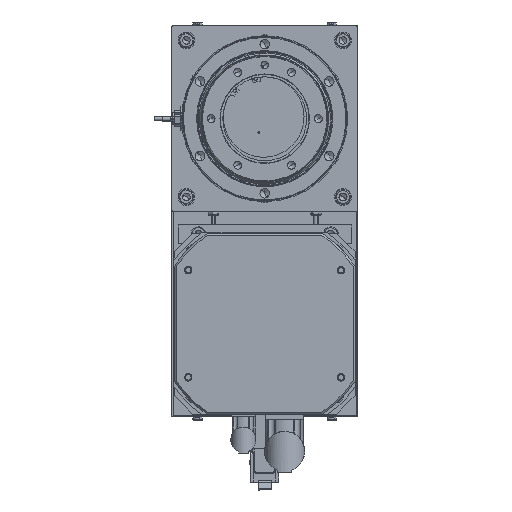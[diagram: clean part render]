
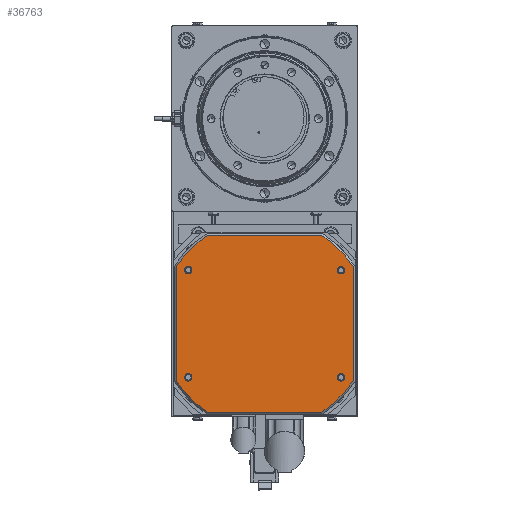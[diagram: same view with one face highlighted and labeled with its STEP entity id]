
A CAD part, front view. The second image highlights one B-rep face of the part: STEP entity #36763.
In plain terms, the highlighted planar face has unit normal (0, -1, 0).
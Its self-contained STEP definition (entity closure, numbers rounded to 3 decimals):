
#228 = CARTESIAN_POINT ( 'NONE',  ( 194.75, 449., -258.592 ) ) ;
#2243 = VERTEX_POINT ( 'NONE', #48821 ) ;
#2820 = VERTEX_POINT ( 'NONE', #10951 ) ;
#3305 = CARTESIAN_POINT ( 'NONE',  ( 17.75, 449., -377.25 ) ) ;
#3307 = CARTESIAN_POINT ( 'NONE',  ( 17.75, 449., -262.25 ) ) ;
#3503 = ORIENTED_EDGE ( 'NONE', *, *, #38273, .F. ) ;
#3523 = CIRCLE ( 'NONE', #29158, 4. ) ;
#3658 = DIRECTION ( 'NONE',  ( 0., -1., 0. ) ) ;
#4321 = VERTEX_POINT ( 'NONE', #14325 ) ;
#4734 = CARTESIAN_POINT ( 'NONE',  ( 160.908, 449., -224.75 ) ) ;
#5127 = AXIS2_PLACEMENT_3D ( 'NONE', #24623, #32156, #50766 ) ;
#5222 = ORIENTED_EDGE ( 'NONE', *, *, #24309, .F. ) ;
#5969 = CARTESIAN_POINT ( 'NONE',  ( 17.75, 449., -381.25 ) ) ;
#6204 = CIRCLE ( 'NONE', #25626, 4. ) ;
#6402 = CARTESIAN_POINT ( 'NONE',  ( 181.75, 449., -266.25 ) ) ;
#6454 = CIRCLE ( 'NONE', #31220, 4. ) ;
#7301 = DIRECTION ( 'NONE',  ( 0., -1., 0. ) ) ;
#7400 = AXIS2_PLACEMENT_3D ( 'NONE', #27707, #43821, #43326 ) ;
#7471 = DIRECTION ( 'NONE',  ( 0., 0., 1. ) ) ;
#7757 = ORIENTED_EDGE ( 'NONE', *, *, #43658, .F. ) ;
#8164 = VECTOR ( 'NONE', #18660, 1000. ) ;
#8165 = DIRECTION ( 'NONE',  ( 1., 0., 0. ) ) ;
#9275 = FACE_OUTER_BOUND ( 'NONE', #21077, .T. ) ;
#9296 = EDGE_LOOP ( 'NONE', ( #31710, #5222 ) ) ;
#9676 = CARTESIAN_POINT ( 'NONE',  ( 17.75, 449., -377.25 ) ) ;
#9792 = AXIS2_PLACEMENT_3D ( 'NONE', #38529, #30179, #14590 ) ;
#9911 = CIRCLE ( 'NONE', #31871, 4. ) ;
#10232 = ORIENTED_EDGE ( 'NONE', *, *, #27323, .T. ) ;
#10743 = AXIS2_PLACEMENT_3D ( 'NONE', #3307, #7301, #7471 ) ;
#10832 = CIRCLE ( 'NONE', #44377, 4. ) ;
#10951 = CARTESIAN_POINT ( 'NONE',  ( 17.75, 449., -266.25 ) ) ;
#11466 = CARTESIAN_POINT ( 'NONE',  ( 97.207, 449., -317.207 ) ) ;
#11477 = VERTEX_POINT ( 'NONE', #44971 ) ;
#13002 = EDGE_CURVE ( 'NONE', #45890, #41503, #19763, .T. ) ;
#13611 = FACE_BOUND ( 'NONE', #37786, .T. ) ;
#13620 = CIRCLE ( 'NONE', #47258, 116.5 ) ;
#13631 = CARTESIAN_POINT ( 'NONE',  ( 181.75, 449., -377.25 ) ) ;
#14325 = CARTESIAN_POINT ( 'NONE',  ( 181.75, 449., -258.25 ) ) ;
#14421 = DIRECTION ( 'NONE',  ( -1., 0., 0. ) ) ;
#14552 = EDGE_CURVE ( 'NONE', #2243, #50230, #3523, .T. ) ;
#14590 = DIRECTION ( 'NONE',  ( 0., 0., 1. ) ) ;
#14837 = DIRECTION ( 'NONE',  ( 0., 0., 1. ) ) ;
#15082 = DIRECTION ( 'NONE',  ( 0., 0., 1. ) ) ;
#15190 = CIRCLE ( 'NONE', #10743, 4. ) ;
#15437 = DIRECTION ( 'NONE',  ( 0., -1., 0. ) ) ;
#15870 = EDGE_LOOP ( 'NONE', ( #26726, #41537 ) ) ;
#16595 = ORIENTED_EDGE ( 'NONE', *, *, #13002, .T. ) ;
#17016 = EDGE_CURVE ( 'NONE', #19038, #42724, #18730, .T. ) ;
#17201 = VECTOR ( 'NONE', #14421, 1000. ) ;
#17276 = CARTESIAN_POINT ( 'NONE',  ( 181.75, 449., -262.25 ) ) ;
#17932 = ORIENTED_EDGE ( 'NONE', *, *, #20267, .T. ) ;
#18660 = DIRECTION ( 'NONE',  ( 0., 0., -1. ) ) ;
#18692 = DIRECTION ( 'NONE',  ( 0., -1., 0. ) ) ;
#18730 = CIRCLE ( 'NONE', #49654, 4. ) ;
#19038 = VERTEX_POINT ( 'NONE', #5969 ) ;
#19189 = EDGE_CURVE ( 'NONE', #28731, #11477, #20701, .T. ) ;
#19295 = CIRCLE ( 'NONE', #9792, 4. ) ;
#19328 = VERTEX_POINT ( 'NONE', #39847 ) ;
#19763 = LINE ( 'NONE', #22810, #17201 ) ;
#20267 = EDGE_CURVE ( 'NONE', #19328, #33343, #44814, .T. ) ;
#20701 = CIRCLE ( 'NONE', #21875, 116.5 ) ;
#21077 = EDGE_LOOP ( 'NONE', ( #48402, #10232, #44439, #26309, #45996, #16595, #31492, #17932 ) ) ;
#21324 = EDGE_CURVE ( 'NONE', #4321, #25503, #6204, .T. ) ;
#21339 = CARTESIAN_POINT ( 'NONE',  ( 38.592, 449., -414.75 ) ) ;
#21748 = FACE_BOUND ( 'NONE', #9296, .T. ) ;
#21781 = CARTESIAN_POINT ( 'NONE',  ( 160.908, 449., -414.75 ) ) ;
#21831 = DIRECTION ( 'NONE',  ( 0., -1., 0. ) ) ;
#21848 = DIRECTION ( 'NONE',  ( 0., -1., 0. ) ) ;
#21875 = AXIS2_PLACEMENT_3D ( 'NONE', #11466, #15437, #15082 ) ;
#22247 = CARTESIAN_POINT ( 'NONE',  ( 38.592, 449., -224.75 ) ) ;
#22339 = FACE_BOUND ( 'NONE', #15870, .T. ) ;
#22810 = CARTESIAN_POINT ( 'NONE',  ( 97.207, 449., -224.75 ) ) ;
#24224 = EDGE_CURVE ( 'NONE', #11477, #27401, #32116, .T. ) ;
#24309 = EDGE_CURVE ( 'NONE', #2820, #30081, #15190, .T. ) ;
#24341 = CARTESIAN_POINT ( 'NONE',  ( 97.207, 449., -414.75 ) ) ;
#24623 = CARTESIAN_POINT ( 'NONE',  ( 97.207, 449., -317.207 ) ) ;
#25251 = ORIENTED_EDGE ( 'NONE', *, *, #21324, .F. ) ;
#25503 = VERTEX_POINT ( 'NONE', #6402 ) ;
#25626 = AXIS2_PLACEMENT_3D ( 'NONE', #39384, #31071, #43174 ) ;
#26309 = ORIENTED_EDGE ( 'NONE', *, *, #24224, .T. ) ;
#26344 = CARTESIAN_POINT ( 'NONE',  ( 4.75, 449., -317.207 ) ) ;
#26612 = DIRECTION ( 'NONE',  ( 0., 0., 1. ) ) ;
#26726 = ORIENTED_EDGE ( 'NONE', *, *, #14552, .F. ) ;
#27096 = EDGE_LOOP ( 'NONE', ( #3503, #35840 ) ) ;
#27106 = VECTOR ( 'NONE', #26612, 1000. ) ;
#27166 = CIRCLE ( 'NONE', #7400, 116.5 ) ;
#27323 = EDGE_CURVE ( 'NONE', #45487, #28731, #42158, .T. ) ;
#27395 = FACE_BOUND ( 'NONE', #27096, .T. ) ;
#27401 = VERTEX_POINT ( 'NONE', #228 ) ;
#27707 = CARTESIAN_POINT ( 'NONE',  ( 102.293, 449., -322.293 ) ) ;
#28433 = AXIS2_PLACEMENT_3D ( 'NONE', #34435, #38753, #14837 ) ;
#28731 = VERTEX_POINT ( 'NONE', #21781 ) ;
#29158 = AXIS2_PLACEMENT_3D ( 'NONE', #13631, #45649, #49472 ) ;
#29704 = CARTESIAN_POINT ( 'NONE',  ( 102.293, 449., -317.207 ) ) ;
#30081 = VERTEX_POINT ( 'NONE', #35004 ) ;
#30179 = DIRECTION ( 'NONE',  ( 0., -1., 0. ) ) ;
#31071 = DIRECTION ( 'NONE',  ( 0., -1., 0. ) ) ;
#31220 = AXIS2_PLACEMENT_3D ( 'NONE', #9676, #21848, #37540 ) ;
#31492 = ORIENTED_EDGE ( 'NONE', *, *, #40299, .T. ) ;
#31644 = VECTOR ( 'NONE', #8165, 1000. ) ;
#31710 = ORIENTED_EDGE ( 'NONE', *, *, #43424, .F. ) ;
#31871 = AXIS2_PLACEMENT_3D ( 'NONE', #17276, #21831, #45460 ) ;
#32116 = LINE ( 'NONE', #34663, #27106 ) ;
#32156 = DIRECTION ( 'NONE',  ( 0., 1., 0. ) ) ;
#32508 = PLANE ( 'NONE',  #5127 ) ;
#33343 = VERTEX_POINT ( 'NONE', #41367 ) ;
#34435 = CARTESIAN_POINT ( 'NONE',  ( 97.207, 449., -322.293 ) ) ;
#34663 = CARTESIAN_POINT ( 'NONE',  ( 194.75, 449., -317.207 ) ) ;
#35004 = CARTESIAN_POINT ( 'NONE',  ( 17.75, 449., -258.25 ) ) ;
#35840 = ORIENTED_EDGE ( 'NONE', *, *, #17016, .F. ) ;
#35861 = CARTESIAN_POINT ( 'NONE',  ( 181.75, 449., -381.25 ) ) ;
#36763 = ADVANCED_FACE ( 'NONE', ( #9275, #22339, #21748, #13611, #27395 ), #32508, .F. ) ;
#37540 = DIRECTION ( 'NONE',  ( 0., 0., 1. ) ) ;
#37786 = EDGE_LOOP ( 'NONE', ( #25251, #7757 ) ) ;
#38225 = DIRECTION ( 'NONE',  ( 0., 0., 1. ) ) ;
#38273 = EDGE_CURVE ( 'NONE', #42724, #19038, #6454, .T. ) ;
#38529 = CARTESIAN_POINT ( 'NONE',  ( 17.75, 449., -262.25 ) ) ;
#38753 = DIRECTION ( 'NONE',  ( 0., -1., 0. ) ) ;
#38969 = DIRECTION ( 'NONE',  ( 0., 0., 1. ) ) ;
#39384 = CARTESIAN_POINT ( 'NONE',  ( 181.75, 449., -262.25 ) ) ;
#39847 = CARTESIAN_POINT ( 'NONE',  ( 4.75, 449., -258.592 ) ) ;
#40299 = EDGE_CURVE ( 'NONE', #41503, #19328, #27166, .T. ) ;
#41078 = EDGE_CURVE ( 'NONE', #50230, #2243, #10832, .T. ) ;
#41144 = EDGE_CURVE ( 'NONE', #27401, #45890, #43782, .T. ) ;
#41367 = CARTESIAN_POINT ( 'NONE',  ( 4.75, 449., -380.908 ) ) ;
#41503 = VERTEX_POINT ( 'NONE', #22247 ) ;
#41537 = ORIENTED_EDGE ( 'NONE', *, *, #41078, .F. ) ;
#41677 = DIRECTION ( 'NONE',  ( 0., -1., 0. ) ) ;
#42158 = LINE ( 'NONE', #24341, #31644 ) ;
#42526 = CARTESIAN_POINT ( 'NONE',  ( 181.75, 449., -377.25 ) ) ;
#42724 = VERTEX_POINT ( 'NONE', #45125 ) ;
#43174 = DIRECTION ( 'NONE',  ( 0., 0., 1. ) ) ;
#43326 = DIRECTION ( 'NONE',  ( 0., 0., 1. ) ) ;
#43424 = EDGE_CURVE ( 'NONE', #30081, #2820, #19295, .T. ) ;
#43658 = EDGE_CURVE ( 'NONE', #25503, #4321, #9911, .T. ) ;
#43782 = CIRCLE ( 'NONE', #28433, 116.5 ) ;
#43821 = DIRECTION ( 'NONE',  ( 0., -1., 0. ) ) ;
#44377 = AXIS2_PLACEMENT_3D ( 'NONE', #42526, #18692, #50516 ) ;
#44439 = ORIENTED_EDGE ( 'NONE', *, *, #19189, .T. ) ;
#44814 = LINE ( 'NONE', #26344, #8164 ) ;
#44971 = CARTESIAN_POINT ( 'NONE',  ( 194.75, 449., -380.908 ) ) ;
#45125 = CARTESIAN_POINT ( 'NONE',  ( 17.75, 449., -373.25 ) ) ;
#45460 = DIRECTION ( 'NONE',  ( 0., 0., 1. ) ) ;
#45487 = VERTEX_POINT ( 'NONE', #21339 ) ;
#45649 = DIRECTION ( 'NONE',  ( 0., -1., 0. ) ) ;
#45890 = VERTEX_POINT ( 'NONE', #4734 ) ;
#45996 = ORIENTED_EDGE ( 'NONE', *, *, #41144, .T. ) ;
#46492 = EDGE_CURVE ( 'NONE', #33343, #45487, #13620, .T. ) ;
#47258 = AXIS2_PLACEMENT_3D ( 'NONE', #29704, #41677, #38225 ) ;
#48402 = ORIENTED_EDGE ( 'NONE', *, *, #46492, .T. ) ;
#48821 = CARTESIAN_POINT ( 'NONE',  ( 181.75, 449., -373.25 ) ) ;
#49472 = DIRECTION ( 'NONE',  ( 0., 0., 1. ) ) ;
#49654 = AXIS2_PLACEMENT_3D ( 'NONE', #3305, #3658, #38969 ) ;
#50230 = VERTEX_POINT ( 'NONE', #35861 ) ;
#50516 = DIRECTION ( 'NONE',  ( 0., 0., 1. ) ) ;
#50766 = DIRECTION ( 'NONE',  ( 0., 0., 1. ) ) ;
